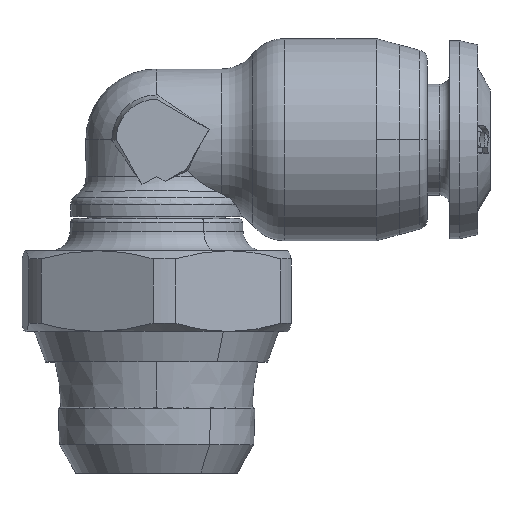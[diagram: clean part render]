
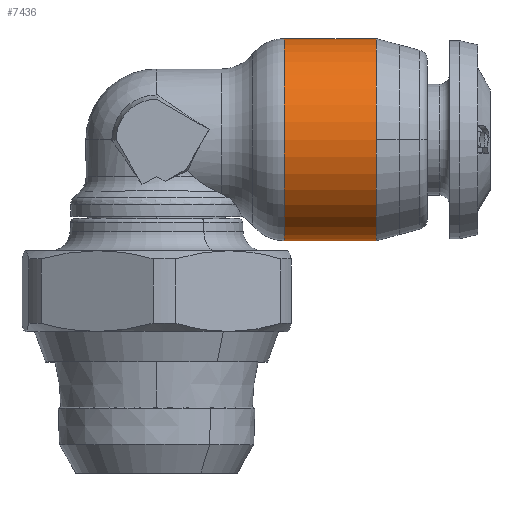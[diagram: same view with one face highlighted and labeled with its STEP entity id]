
A CAD part, top view. The second image highlights one B-rep face of the part: STEP entity #7436.
In plain terms, the highlighted cylindrical face has radius 5 mm (diameter 10 mm), a partial arc.
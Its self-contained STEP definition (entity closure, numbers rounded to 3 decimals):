
#146 = CIRCLE ( 'NONE', #2034, 5. ) ;
#147 = LINE ( 'NONE', #5087, #151 ) ;
#150 = CIRCLE ( 'NONE', #2036, 5. ) ;
#151 = VECTOR ( 'NONE', #5100, 1000. ) ;
#152 = CIRCLE ( 'NONE', #2037, 5. ) ;
#153 = LINE ( 'NONE', #5083, #155 ) ;
#155 = VECTOR ( 'NONE', #5081, 1000. ) ;
#706 = EDGE_LOOP ( 'NONE', ( #5309, #5310, #5311, #5312, #5313 ) ) ;
#2034 = AXIS2_PLACEMENT_3D ( 'NONE', #5090, #5089, #5088 ) ;
#2036 = AXIS2_PLACEMENT_3D ( 'NONE', #5080, #5079, #5078 ) ;
#2037 = AXIS2_PLACEMENT_3D ( 'NONE', #5076, #5075, #5074 ) ;
#3929 = EDGE_CURVE ( 'NONE', #4521, #4520, #146, .T. ) ;
#3931 = EDGE_CURVE ( 'NONE', #4520, #4519, #147, .T. ) ;
#3932 = EDGE_CURVE ( 'NONE', #4517, #4519, #150, .T. ) ;
#3933 = EDGE_CURVE ( 'NONE', #4523, #4517, #152, .T. ) ;
#3934 = EDGE_CURVE ( 'NONE', #4521, #4523, #153, .T. ) ;
#4517 = VERTEX_POINT ( 'NONE', #12814 ) ;
#4519 = VERTEX_POINT ( 'NONE', #12816 ) ;
#4520 = VERTEX_POINT ( 'NONE', #12817 ) ;
#4521 = VERTEX_POINT ( 'NONE', #12818 ) ;
#4523 = VERTEX_POINT ( 'NONE', #12820 ) ;
#5074 = DIRECTION ( 'NONE',  ( 0., 1., 0. ) ) ;
#5075 = DIRECTION ( 'NONE',  ( 1., 0., 0. ) ) ;
#5076 = CARTESIAN_POINT ( 'NONE',  ( 10.88, 0., 0. ) ) ;
#5078 = DIRECTION ( 'NONE',  ( 0., 1., 0. ) ) ;
#5079 = DIRECTION ( 'NONE',  ( 1., 0., 0. ) ) ;
#5080 = CARTESIAN_POINT ( 'NONE',  ( 10.88, 0., 0. ) ) ;
#5081 = DIRECTION ( 'NONE',  ( 1., 0., 0. ) ) ;
#5083 = CARTESIAN_POINT ( 'NONE',  ( 12., 5., 0. ) ) ;
#5087 = CARTESIAN_POINT ( 'NONE',  ( 12., -5., 0. ) ) ;
#5088 = DIRECTION ( 'NONE',  ( 0., 1., 0. ) ) ;
#5089 = DIRECTION ( 'NONE',  ( 1., 0., 0. ) ) ;
#5090 = CARTESIAN_POINT ( 'NONE',  ( 6.328, 0., 0. ) ) ;
#5100 = DIRECTION ( 'NONE',  ( 1., 0., 0. ) ) ;
#5309 = ORIENTED_EDGE ( 'NONE', *, *, #3929, .T. ) ;
#5310 = ORIENTED_EDGE ( 'NONE', *, *, #3931, .T. ) ;
#5311 = ORIENTED_EDGE ( 'NONE', *, *, #3932, .F. ) ;
#5312 = ORIENTED_EDGE ( 'NONE', *, *, #3933, .F. ) ;
#5313 = ORIENTED_EDGE ( 'NONE', *, *, #3934, .F. ) ;
#6773 = CARTESIAN_POINT ( 'NONE',  ( 12., 0., 0. ) ) ;
#6774 = DIRECTION ( 'NONE',  ( 1., 0., 0. ) ) ;
#6782 = DIRECTION ( 'NONE',  ( 0., 1., 0. ) ) ;
#7263 = AXIS2_PLACEMENT_3D ( 'NONE', #6773, #6774, #6782 ) ;
#7436 = ADVANCED_FACE ( 'NONE', ( #10073 ), #10081, .T. ) ;
#10073 = FACE_OUTER_BOUND ( 'NONE', #706, .T. ) ;
#10081 = CYLINDRICAL_SURFACE ( 'NONE', #7263, 5. ) ;
#12814 = CARTESIAN_POINT ( 'NONE',  ( 10.88, 0., 5. ) ) ;
#12816 = CARTESIAN_POINT ( 'NONE',  ( 10.88, -5., 0. ) ) ;
#12817 = CARTESIAN_POINT ( 'NONE',  ( 6.328, -5., 0. ) ) ;
#12818 = CARTESIAN_POINT ( 'NONE',  ( 6.328, 5., 0. ) ) ;
#12820 = CARTESIAN_POINT ( 'NONE',  ( 10.88, 5., 0. ) ) ;
